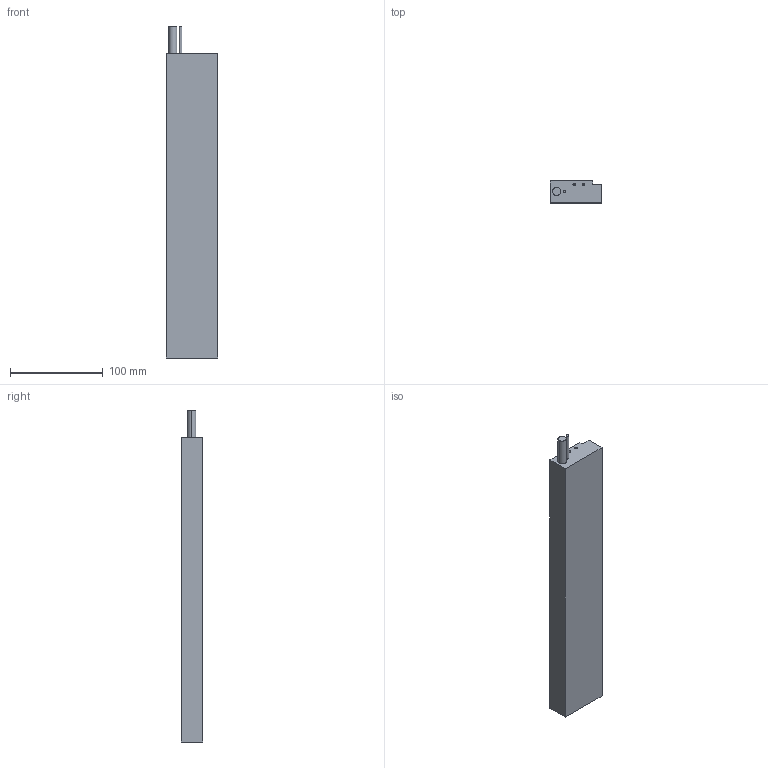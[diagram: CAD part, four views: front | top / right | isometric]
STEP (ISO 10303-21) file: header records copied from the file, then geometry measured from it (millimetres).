
FILE_DESCRIPTION (( 'STEP AP203' ), '1' );
FILE_NAME ('LMSA13.STEP', '2016-05-13T05:26:40', ( '' ), ( '' ), 'SwSTEP 2.0', 'SolidWorks 2015', '' );
FILE_SCHEMA (( 'CONFIG_CONTROL_DESIGN' ));
Length unit declared in the file: millimetre
Products named in the file (1): LMSA13
Bounding box: 56 x 23.7 x 358 mm (x, y, z)
Volume: 422527 mm3; surface area: 56815.6 mm2
Topology: 1 solids, 1 shells, 96 faces, 236 edges, 124 vertices
Faces by surface type: cylinder 44, cone 40, plane 12
Entity records: 2605 total; most frequent: DIRECTION 478, CARTESIAN_POINT 417, ORIENTED_EDGE 392, EDGE_CURVE 196, AXIS2_PLACEMENT_3D 185, VERTEX_POINT 124, EDGE_LOOP 118, VECTOR 108
